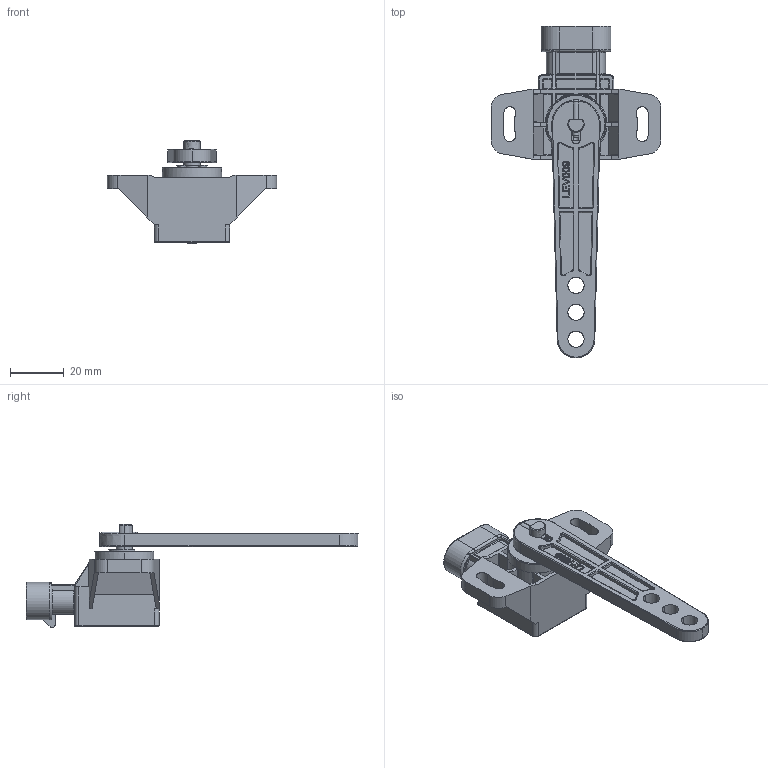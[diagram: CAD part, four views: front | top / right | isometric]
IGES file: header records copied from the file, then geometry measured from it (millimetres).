
Start section: SolidWorks IGES file using analytic representation for surfaces
Global section: file name: \\srv4gefran\dir-cat\Disegni Catalogo\Mobile\GR3P\GR3P 50\3D\Solidworks 2024\GR3PA S5E1HS xxx xxxx D0.IGS; native system: SolidWorks 2024; preprocessor: SolidWorks 2024; author: Loda-w1; date: 241219.161142; units: millimetre
Bounding box: 63 x 123.5 x 38.47 mm (x, y, z)
Surface area: 17919.5 mm2 (no closed solid volume)
Topology: 0 solids, 0 shells, 787 faces, 7303 edges, 7263 vertices
Faces by surface type: bspline 446, revolution 341
